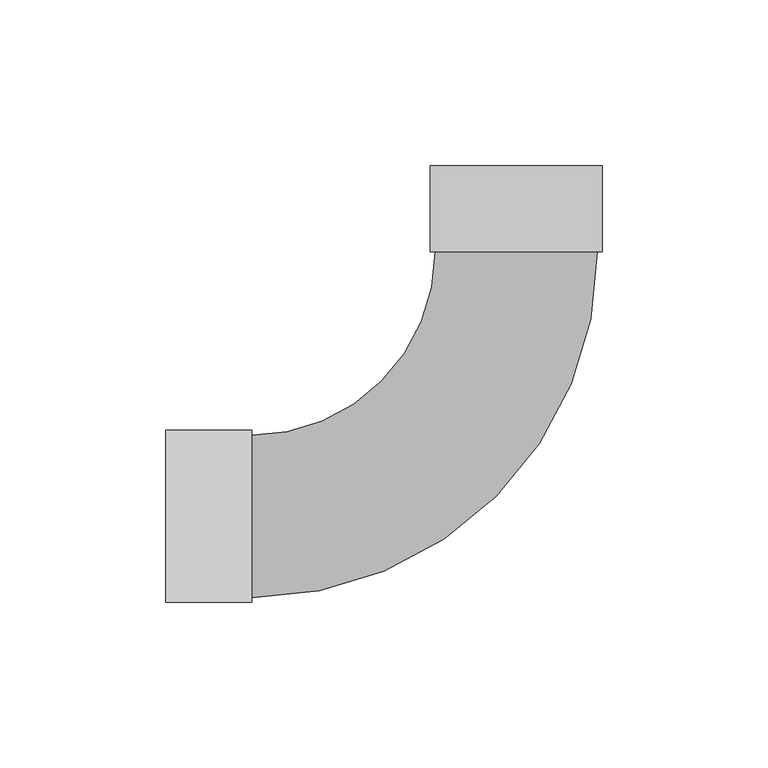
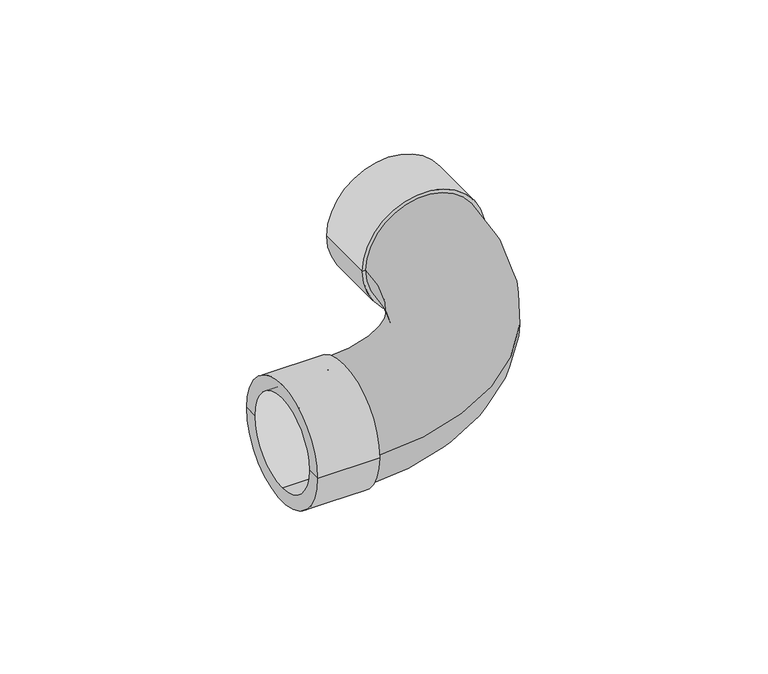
"""IFC4 building model written with IfcOpenShell, lengths in millimetres: pipe fitting geometry, PipeFitting_HTA_CPVC_Bends90° : 40mm x 90°."""

from ifc_helpers import new_model, si_unit, point, frame, origin, place, context, project, spatial, polyline, circle_curve, ellipse_curve, trimmed, source, transform, mapped, element, save
from ifc_brep_helpers import plane_surface, cylinder_surface, revolved_surface, advanced_brep


def pipe_fitting_2f6c7c8f(model_context):
    return source(origin(), model_context, "Body", "AdvancedBrep", [
        advanced_brep(
        [(-80.0, -24.5, 0.0), (24.5, 80.0, 0.0), (-24.5, 80.0, 0.0), (-80.0, 24.5, 0.0), (-80.0, 26.0, 0.0), (-80.0, -26.0, 0.0), (-106.0, -26.0, 0.0), (-106.0, 26.0, 0.0), (-106.0, -20.0, 0.0), (-106.0, 0.0, -20.0), (-106.0, 20.0, 0.0), (-106.0, 0.0, 20.0), (-26.0, 80.0, 0.0), (26.0, 80.0, 0.0), (26.0, 106.0, 0.0), (-26.0, 106.0, 0.0), (-20.0, 106.0, 0.0), (0.0, 106.0, -20.0), (20.0, 106.0, 0.0), (0.0, 106.0, 20.0), (0.0, 80.0, -20.0), (0.0, 80.0, 20.0), (-80.0, 0.0, -20.0), (-80.0, 0.0, 20.0)],
        [
            (0, 1, circle_curve(frame((-80.0, 80.0, 0.0), z_axis=(0.0, 0.0, 1.0), x_axis=(1.0, 0.0, 0.0)), 104.5)),
            (1, 2, circle_curve(frame((0.0, 80.0, 0.0), z_axis=(0.0, -1.0, 0.0), x_axis=(1.0, 0.0, 0.0)), 24.5)),
            (2, 3, circle_curve(frame((-80.0, 80.0, 0.0), z_axis=(0.0, 0.0, -1.0), x_axis=(1.0, 0.0, 0.0)), 55.5)),
            (3, 0, circle_curve(frame((-80.0, 0.0, 0.0), z_axis=(1.0, 0.0, 0.0), x_axis=(0.0, -1.0, 0.0)), 24.5)),
            (0, 3, circle_curve(frame((-80.0, 0.0, 0.0), z_axis=(1.0, 0.0, 0.0), x_axis=(0.0, -1.0, 0.0)), 24.5)),
            (2, 1, circle_curve(frame((0.0, 80.0, 0.0), z_axis=(0.0, -1.0, 0.0), x_axis=(1.0, 0.0, 0.0)), 24.5)),
            (4, 5, circle_curve(frame((-80.0, 0.0, 0.0), z_axis=(-1.0, 0.0, 0.0), x_axis=(0.0, -1.0, 0.0)), 26.0)),
            (5, 6),
            (6, 7, circle_curve(frame((-106.0, 0.0, 0.0), z_axis=(1.0, 0.0, 0.0), x_axis=(0.0, -1.0, 0.0)), 26.0)),
            (7, 4),
            (5, 4, circle_curve(frame((-80.0, 0.0, 0.0), z_axis=(-1.0, 0.0, 0.0), x_axis=(0.0, -1.0, 0.0)), 26.0)),
            (7, 6, circle_curve(frame((-106.0, 0.0, 0.0), z_axis=(1.0, 0.0, 0.0), x_axis=(0.0, -1.0, 0.0)), 26.0)),
            (4, 3),
            (0, 5),
            (6, 8),
            (8, 9, circle_curve(frame((-106.0, 0.0, 0.0), z_axis=(1.0, 0.0, 0.0), x_axis=(0.0, 0.0, 1.0)), 20.0)),
            (9, 10, circle_curve(frame((-106.0, 0.0, 0.0), z_axis=(1.0, 0.0, 0.0), x_axis=(0.0, 0.0, 1.0)), 20.0)),
            (10, 7),
            (10, 11, circle_curve(frame((-106.0, 0.0, 0.0), z_axis=(1.0, 0.0, 0.0), x_axis=(0.0, 0.0, 1.0)), 20.0)),
            (11, 8, circle_curve(frame((-106.0, 0.0, 0.0), z_axis=(1.0, 0.0, 0.0), x_axis=(0.0, 0.0, 1.0)), 20.0)),
            (12, 13, circle_curve(frame((0.0, 80.0, 0.0), z_axis=(0.0, -1.0, 0.0), x_axis=(-1.0, 0.0, 0.0)), 26.0)),
            (13, 1),
            (2, 12),
            (13, 12, circle_curve(frame((0.0, 80.0, 0.0), z_axis=(0.0, -1.0, 0.0), x_axis=(-1.0, 0.0, 0.0)), 26.0)),
            (14, 15, circle_curve(frame((0.0, 106.0, 0.0), z_axis=(0.0, 1.0, 0.0), x_axis=(-1.0, 0.0, 0.0)), 26.0)),
            (15, 16),
            (16, 17, circle_curve(frame((0.0, 106.0, 0.0), z_axis=(0.0, -1.0, 0.0), x_axis=(0.0, 0.0, 1.0)), 20.0)),
            (17, 18, circle_curve(frame((0.0, 106.0, 0.0), z_axis=(0.0, -1.0, 0.0), x_axis=(0.0, 0.0, 1.0)), 20.0)),
            (18, 14),
            (15, 14, circle_curve(frame((0.0, 106.0, 0.0), z_axis=(0.0, 1.0, 0.0), x_axis=(-1.0, 0.0, 0.0)), 26.0)),
            (18, 19, circle_curve(frame((0.0, 106.0, 0.0), z_axis=(0.0, -1.0, 0.0), x_axis=(0.0, 0.0, 1.0)), 20.0)),
            (19, 16, circle_curve(frame((0.0, 106.0, 0.0), z_axis=(0.0, -1.0, 0.0), x_axis=(0.0, 0.0, 1.0)), 20.0)),
            (12, 15),
            (14, 13),
            (20, 21, circle_curve(frame((0.0, 80.0, 0.0), z_axis=(0.0, 1.0, 0.0), x_axis=(0.0, 0.0, 1.0)), 20.0)),
            (21, 20, circle_curve(frame((0.0, 80.0, 0.0), z_axis=(0.0, 1.0, 0.0), x_axis=(0.0, 0.0, 1.0)), 20.0)),
            (21, 19),
            (17, 20),
            (22, 23, circle_curve(frame((-80.0, 0.0, 0.0), z_axis=(-1.0, 0.0, 0.0), x_axis=(0.0, 0.0, 1.0)), 20.0)),
            (23, 22, circle_curve(frame((-80.0, 0.0, 0.0), z_axis=(-1.0, 0.0, 0.0), x_axis=(0.0, 0.0, 1.0)), 20.0)),
            (23, 11),
            (9, 22),
        ],
        [
            revolved_surface(trimmed(ellipse_curve(frame((0.0, 80.0, 0.0), z_axis=(0.0, 1.0, 0.0), x_axis=(1.0, 0.0, 0.0)), 24.5, 24.5), [point((-24.5, 80.0, 0.0))], [point((24.5, 80.0, 0.0))], True, "CARTESIAN"), (-80.0, 80.0, 0.0), (0.0, 0.0, -1.0)),
            revolved_surface(trimmed(ellipse_curve(frame((0.0, 80.0, 0.0), z_axis=(0.0, 1.0, 0.0), x_axis=(1.0, 0.0, 0.0)), 24.5, 24.5), [point((24.5, 80.0, 0.0))], [point((-24.5, 80.0, 0.0))], True, "CARTESIAN"), (-80.0, 80.0, 0.0), (0.0, 0.0, -1.0)),
            cylinder_surface(frame((-80.0, 0.0, 0.0), z_axis=(1.0, 0.0, 0.0), x_axis=(0.0, -1.0, 0.0)), 26.0),
            plane_surface(frame((-80.0, 0.0, 0.0), z_axis=(1.0, 0.0, 0.0), x_axis=(0.0, -1.0, 0.0))),
            plane_surface(frame((-106.0, 0.0, 0.0), z_axis=(-1.0, 0.0, 0.0), x_axis=(0.0, -1.0, 0.0))),
            plane_surface(frame((0.0, 80.0, 0.0), z_axis=(0.0, -1.0, 0.0), x_axis=(-1.0, 0.0, 0.0))),
            plane_surface(frame((0.0, 106.0, 0.0), z_axis=(0.0, 1.0, 0.0), x_axis=(-1.0, 0.0, 0.0))),
            cylinder_surface(frame((0.0, 106.0, 0.0), z_axis=(0.0, -1.0, 0.0), x_axis=(-1.0, 0.0, 0.0)), 26.0),
            plane_surface(frame((0.0, 80.0, 20.0), z_axis=(0.0, 1.0, 0.0), x_axis=(-1.0, 0.0, 0.0))),
            revolved_surface(polyline([(0.0, 80.0, 20.0), (0.0, 106.0, 20.0)]), (0.0, 106.0, 0.0), (0.0, -1.0, 0.0)),
            plane_surface(frame((-80.0, 0.0, 20.0), z_axis=(-1.0, 0.0, 0.0), x_axis=(0.0, -1.0, 0.0))),
            revolved_surface(polyline([(-80.0, 0.0, 20.0), (-106.0, 0.0, 20.0)]), (-106.0, 0.0, 0.0), (1.0, 0.0, 0.0)),
        ],
        [
            (0, [[1, 2, 3, 4]]),
            (1, [[-1, 5, -3, 6]]),
            (2, [[7, 8, 9, 10]]),
            (2, [[-8, 11, -10, 12]]),
            (3, [[-7, 13, -5, 14]]),
            (3, [[-11, -14, -4, -13]]),
            (4, [[-9, 15, 16, 17, 18]]),
            (4, [[-12, -18, 19, 20, -15]]),
            (5, [[21, 22, -6, 23]]),
            (5, [[24, -23, -2, -22]]),
            (6, [[25, 26, 27, 28, 29]]),
            (6, [[30, -29, 31, 32, -26]]),
            (7, [[-21, 33, -25, 34]]),
            (7, [[-24, -34, -30, -33]]),
            (8, [[35, 36]]),
            (9, [[-36, 37, -31, -28, 38]]),
            (9, [[-35, -38, -27, -32, -37]]),
            (10, [[39, 40]]),
            (11, [[-40, 41, -19, -17, 42]]),
            (11, [[-39, -42, -16, -20, -41]]),
        ],
    ),
    ])


if __name__ == "__main__":
    model = new_model("IFC4")
    model_context = context("Model", 3, world=origin())
    ifc_project = project(units=[si_unit("LENGTHUNIT", "METRE", prefix="MILLI")], contexts=[model_context])
    site = spatial("IfcSite", under=ifc_project)
    building = spatial("IfcBuilding", under=site)
    placement = place(None, origin())
    pipe_fitting_shape = pipe_fitting_2f6c7c8f(model_context)
    element("IfcPipeFitting", 1, ObjectType="PipeFitting_HTA_CPVC_Bends90° : 40mm x 90°", at=placement, inside=building, context=model_context, shape_type="MappedRepresentation", body=[
        mapped(pipe_fitting_shape, transform((0.0, 0.0, 0.0), x_axis=(1.0, 0.0, 0.0), y_axis=(0.0, 1.0, 0.0), z_axis=(0.0, 0.0, 1.0))),
    ])
    save(model, "model.ifc")
